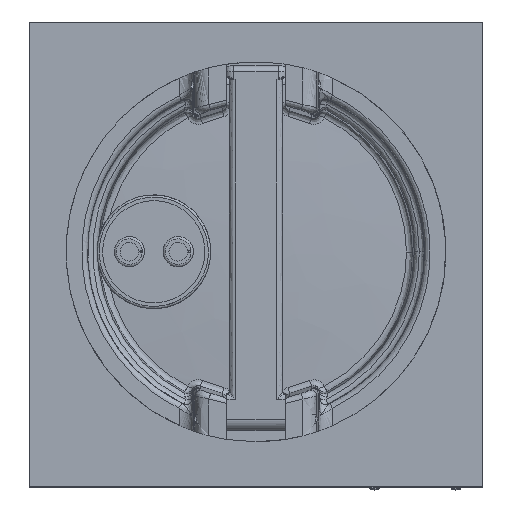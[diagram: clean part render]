
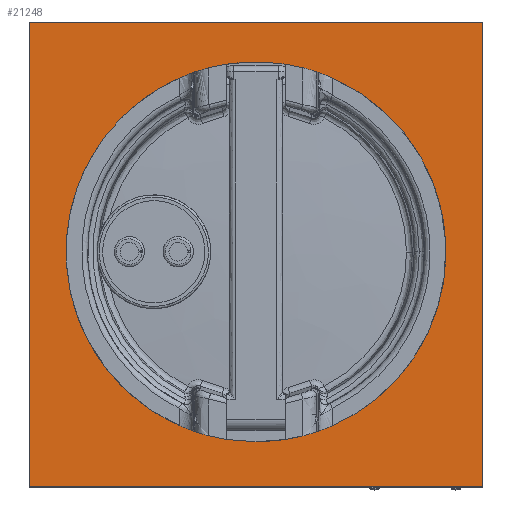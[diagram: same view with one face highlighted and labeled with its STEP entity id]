
A CAD part, top view. The second image highlights one B-rep face of the part: STEP entity #21248.
In plain terms, the highlighted free-form (B-spline) face has degree [1, 1] with [2, 2] control points.
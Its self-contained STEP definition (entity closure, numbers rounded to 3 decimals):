
#21181=CARTESIAN_POINT('V212',(245.28,
   -17.837,30.0));
#21182=VERTEX_POINT('V212',#21181);
#21183=CARTESIAN_POINT('E283',(245.28,
   -17.837,30.0));
#21184=CARTESIAN_POINT('E283',(245.28,
   -154.576,30.0));
#21185=CARTESIAN_POINT('E283',(126.86,
   -86.207,30.0));
#21186=CARTESIAN_POINT('E283',(8.44,-17.837,
   30.0));
#21187=CARTESIAN_POINT('E283',(126.86,
   50.533,30.0));
#21188=CARTESIAN_POINT('E283',(245.28,
   118.903,30.0));
#21189=CARTESIAN_POINT('E283',(245.28,
   -17.837,30.0));
#21197=(BOUNDED_CURVE()B_SPLINE_CURVE(2,(#21183,#21184,#21185,
   #21186,#21187,#21188,#21189),.CIRCULAR_ARC.,.T.,.U.)
   B_SPLINE_CURVE_WITH_KNOTS((3,2,2,3),(0.0,0.333,
   0.667,1.0),.UNSPECIFIED.)CURVE()
   GEOMETRIC_REPRESENTATION_ITEM()RATIONAL_B_SPLINE_CURVE((1.0,
   0.5,1.0,0.5,1.0,0.5,1.0)
   )REPRESENTATION_ITEM('E283'));
#21198=EDGE_CURVE('E283',#21182,#21182,#21197,.T.);
#21210=CARTESIAN_POINT('F98',(59.084,
   -127.837,30.0));
#21211=CARTESIAN_POINT('F98',(273.584,
   -127.837,30.0));
#21212=CARTESIAN_POINT('F98',(59.084,92.163,
   30.0));
#21213=CARTESIAN_POINT('F98',(273.584,92.163,
   30.0));
#21214=QUASI_UNIFORM_SURFACE('F98',1,1,((#21210,#21212),(#21211,
   #21213)),.PLANE_SURF.,.F.,.F.,.U.);
#21215=CARTESIAN_POINT('V14',(263.834,
   -117.837,30.0));
#21216=VERTEX_POINT('V14',#21215);
#21217=CARTESIAN_POINT('V218',(263.834,
   82.163,30.0));
#21218=VERTEX_POINT('V218',#21217);
#21219=CARTESIAN_POINT('E299',(263.834,
   -117.837,30.0));
#21220=CARTESIAN_POINT('E299',(263.834,
   82.163,30.0));
#21221=B_SPLINE_CURVE_WITH_KNOTS('E299',1,(#21219,#21220),
   .POLYLINE_FORM.,.F.,.U.,(2,2),(0.0,10.0),.UNSPECIFIED.);
#21222=EDGE_CURVE('E299',#21216,#21218,#21221,.T.);
#21223=ORIENTED_EDGE('E299',*,*,#21222,.T.);
#21224=CARTESIAN_POINT('V219',(68.834,82.163,
   30.0));
#21225=VERTEX_POINT('V219',#21224);
#21226=CARTESIAN_POINT('E300',(263.834,
   82.163,30.0));
#21227=CARTESIAN_POINT('E300',(68.834,82.163,
   30.0));
#21228=B_SPLINE_CURVE_WITH_KNOTS('E300',1,(#21226,#21227),
   .POLYLINE_FORM.,.F.,.U.,(2,2),(0.0,9.75),
   .UNSPECIFIED.);
#21229=EDGE_CURVE('E300',#21218,#21225,#21228,.T.);
#21230=ORIENTED_EDGE('E300',*,*,#21229,.T.);
#21231=CARTESIAN_POINT('V13',(68.834,
   -117.837,30.0));
#21232=VERTEX_POINT('V13',#21231);
#21233=CARTESIAN_POINT('E301',(68.834,82.163,
   30.0));
#21234=CARTESIAN_POINT('E301',(68.834,
   -117.837,30.0));
#21235=B_SPLINE_CURVE_WITH_KNOTS('E301',1,(#21233,#21234),
   .POLYLINE_FORM.,.F.,.U.,(2,2),(0.0,10.0),.UNSPECIFIED.);
#21236=EDGE_CURVE('E301',#21225,#21232,#21235,.T.);
#21237=ORIENTED_EDGE('E301',*,*,#21236,.T.);
#21238=CARTESIAN_POINT('E18',(68.834,
   -117.837,30.0));
#21239=CARTESIAN_POINT('E18',(263.834,
   -117.837,30.0));
#21240=B_SPLINE_CURVE_WITH_KNOTS('E18',1,(#21238,#21239),
   .POLYLINE_FORM.,.F.,.U.,(2,2),(0.0,9.75),
   .UNSPECIFIED.);
#21241=EDGE_CURVE('E18',#21232,#21216,#21240,.T.);
#21242=ORIENTED_EDGE('E18',*,*,#21241,.T.);
#21243=EDGE_LOOP('F98',(#21223,#21230,#21237,#21242));
#21244=FACE_OUTER_BOUND('F98',#21243,.T.);
#21245=ORIENTED_EDGE('E283',*,*,#21198,.T.);
#21246=EDGE_LOOP('F98',(#21245));
#21247=FACE_BOUND('F98',#21246,.T.);
#21248=ADVANCED_FACE('F98',(#21244,#21247),#21214,.T.);
